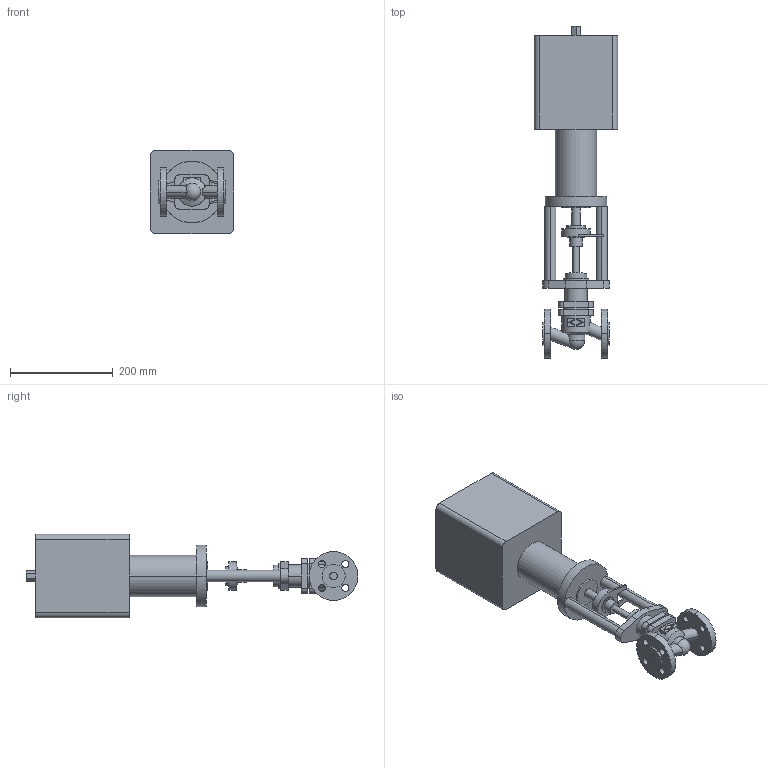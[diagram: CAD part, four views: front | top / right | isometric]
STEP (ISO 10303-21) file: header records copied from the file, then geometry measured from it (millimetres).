
FILE_DESCRIPTION( ( '' ), '1' );
FILE_NAME( 'F:/DE-SHS/TB/OR/04-Sonstiges/daten/files_3d/440-FR2.2/440-PN16-FR2_2/c000004527.stp', '2014-11-06T09:35:56', ( '' ), ( '' ), ' ', ' ', ' ' );
FILE_SCHEMA( ( 'CONFIG_CONTROL_DESIGN' ) );
Length unit declared in the file: millimetre
Products named in the file (2): 1; 2
Bounding box: 162 x 646.5 x 162 mm (x, y, z)
Volume: 6415159.3 mm3; surface area: 345801.4 mm2
Topology: 2 solids, 2 shells, 162 faces, 395 edges, 261 vertices
Faces by surface type: cylinder 82, plane 77, cone 2, sphere 1
Entity records: 5208 total; most frequent: CARTESIAN_POINT 1120, DIRECTION 886, ORIENTED_EDGE 786, EDGE_CURVE 393, AXIS2_PLACEMENT_3D 341, VERTEX_POINT 261, EDGE_LOOP 204, LINE 204
